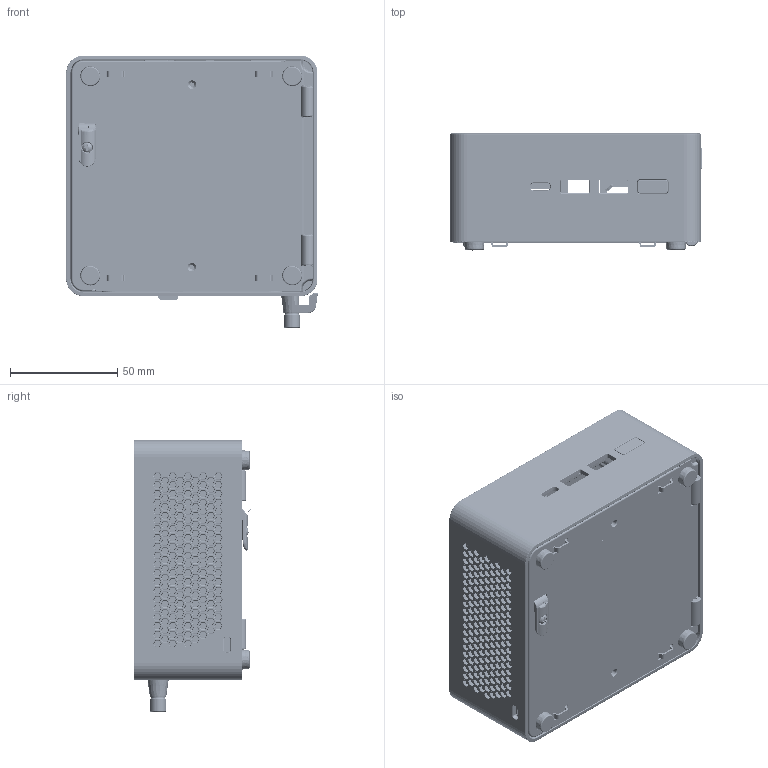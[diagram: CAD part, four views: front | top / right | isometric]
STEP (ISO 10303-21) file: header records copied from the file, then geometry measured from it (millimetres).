
FILE_DESCRIPTION((''),'2;1');
FILE_NAME('000_SYS_15PRO_CR_NUC_ASM','2025-01-22T13:29:07',('GuyiChen'),(''),'CREO PARAMETRIC BY PTC INC, 2020354','CREO PARAMETRIC BY PTC INC, 2020354','');
FILE_SCHEMA(('AUTOMOTIVE_DESIGN { 1 0 10303 214 1 1 1 1 }'));
Length unit declared in the file: millimetre
Products named in the file (70): PLS_COVER_LID_RV_CM-A2; FILM_COVER_TOP_NUC_RV_CM; ASM_LID_NUC14R3_RV_NUC_ASM; PLS_COVER_TOP_T_CR_NUC; PLS_POWER_BUTTON_RV_CM_A2; BKT_COVER_TOP_T_CR_NUC; STD_COVER_TOP_BKT_RV_CM; STD_SOLT_PIN_CR; STD_HINGE_COVER_BTM_CR; ASM_BKT_COVER_TOP_T_CR_NUC_ASM; SPONG_POW_BTN_RUBBER_NUC_RV_CM; SCREW_I_M2_5X5_22-235-250503; GASKET_31X3XH1_8_NUC_CR; ASM_TOP_15PRO_T_CR_NUC_ASM; PLS_LINE_BUCKLE_NUC_LC; HAND_SCREW_LINE_BUCKLE_NUC_LC; PLS_SERIAL_T_NUC_LC; BKT_SERIAL_PORT_T_NUC_LC; GASKET_DAUGHTER_USB_T_NUC_LC; GASKEDAUGHTER_BKT_LAN_T_NUC_LC; SCREW_M3L5_OD525_H1_F; SUB_SERIAL_PORT_BKT_T_CR_NUC_ASM; BKT_SERIAL_PORT_T_CR_2_NUC; M2_TOOLLESS_520-011-150-30_FTK; SCREW_22-235P252500_GREAT_GOLD; BKT_SERIAL_PORT_T_CR_NUC_ASM; PLS_DAUGHTER_T_CR_NUC; BKT_NUC15CRB-LAN; STD_BKT_NUC15CRB-LAN-1; BKT_NUC15CRB-LAN_ASM; GASKET_DAUGHTER_BKT_USB_NUC_LC; GASKET_DAUGHTER_BKT_LAN_NUC_LC; SUB_ASM_DAUGHTER_T_CR_ASM; SCREW_M2XL3_OD50_H08; ASM_PCB_DAUGHTER_T_CR_NUC_ASM; BKT_COVER_BTM_T_CR_NUC; STD_BKT_COVER_BTM_10_NUC_LC; STD_SHAFT_BTM_COVER_CR; STD_LATCH_BTM_COVER_CR; STD_HEATSINK-1_BTM_COVER_CR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
Assembly tree (125 placements, depth 7):
  000_SYS_15PRO_CR_NUC_ASM
    00_ASM_SYS_15PRO_S_T_CR_NUC_ASM
      ASM_LID_NUC14R3_RV_NUC_ASM
        PLS_COVER_LID_RV_CM-A2
        FILM_COVER_TOP_NUC_RV_CM
      ASM_15PRO_T_CR_NUC_ASM
        ASM_TOP_15PRO_T_CR_NUC_ASM
          PLS_COVER_TOP_T_CR_NUC
          PLS_POWER_BUTTON_RV_CM_A2
          ASM_BKT_COVER_TOP_T_CR_NUC_ASM
            BKT_COVER_TOP_T_CR_NUC
            STD_COVER_TOP_BKT_RV_CM  x4
            STD_SOLT_PIN_CR  x2
            STD_HINGE_COVER_BTM_CR  x4
          SPONG_POW_BTN_RUBBER_NUC_RV_CM
          SCREW_I_M2_5X5_22-235-250503  x4
          GASKET_31X3XH1_8_NUC_CR
        PLS_LINE_BUCKLE_NUC_LC
        HAND_SCREW_LINE_BUCKLE_NUC_LC
        SUB_SERIAL_PORT_BKT_T_CR_NUC_ASM
          PLS_SERIAL_T_NUC_LC
          BKT_SERIAL_PORT_T_NUC_LC
          GASKET_DAUGHTER_USB_T_NUC_LC  x2
          GASKEDAUGHTER_BKT_LAN_T_NUC_LC
          SCREW_M3L5_OD525_H1_F  x2
        BKT_SERIAL_PORT_T_CR_NUC_ASM
          PLS_SERIAL_T_NUC_LC
          BKT_SERIAL_PORT_T_CR_2_NUC
          GASKET_DAUGHTER_USB_T_NUC_LC  x2
          GASKEDAUGHTER_BKT_LAN_T_NUC_LC
          SCREW_M3L5_OD525_H1_F  x2
          M2_TOOLLESS_520-011-150-30_FTK
          SCREW_22-235P252500_GREAT_GOLD
        ASM_PCB_DAUGHTER_T_CR_NUC_ASM
          PLS_DAUGHTER_T_CR_NUC
          SUB_ASM_DAUGHTER_T_CR_ASM
            PLS_DAUGHTER_T_CR_NUC
            BKT_NUC15CRB-LAN_ASM
              BKT_NUC15CRB-LAN
              STD_BKT_NUC15CRB-LAN-1  x2
            GASKET_DAUGHTER_BKT_USB_NUC_LC  x3
            GASKET_DAUGHTER_BKT_LAN_NUC_LC
          SCREW_M2XL3_OD50_H08  x2
          M2_TOOLLESS_520-011-150-30_FTK
          SCREW_22-235P252500_GREAT_GOLD
          SCREW_M3L5_OD525_H1_F  x2
        ASM_BKT_BTM_FULL_T_CR_NUC_AF0_ASM
          ASM_BKT_BTM_T_CR_NUC_ASM
            ASM_BKT_COVER_BTM_T_CR_NUC_ASM
              BKT_COVER_BTM_T_CR_NUC
              STD_BKT_COVER_BTM_10_NUC_LC  x2
              STD_SHAFT_BTM_COVER_CR
              STD_LATCH_BTM_COVER_CR  x3
              STD_HEATSINK-1_BTM_COVER_CR  x2
              STD_HEATSINK-2_BTM_COVER_CR  x2
            ASM_AL_MYLAR_NUC14R3K_ASM  x4
              AL_FOIL_NUC14R3K
              MYLAR_FOIL_NUC14R3K
            RUBBER_FOOT_NUC14R3  x4
            ASM_BKT_SHAFT_BTM_CR_ASM
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Bounding box: 117.16 x 54.74 x 127 mm (x, y, z)
Volume: 128567.3 mm3; surface area: 253711.4 mm2
Topology: 115 solids, 119 shells, 16966 faces, 43923 edges, 27527 vertices
Faces by surface type: plane 9091, cylinder 5606, cone 903, bspline 670, torus 553, sphere 107, extrusion 23, revolution 13
Entity records: 554397 total; most frequent: CARTESIAN_POINT 142066, ORIENTED_EDGE 69492, DIRECTION 63166, EDGE_CURVE 34746, VECTOR 24099, LINE 24076, VERTEX_POINT 21589, AXIS2_PLACEMENT_3D 19527
